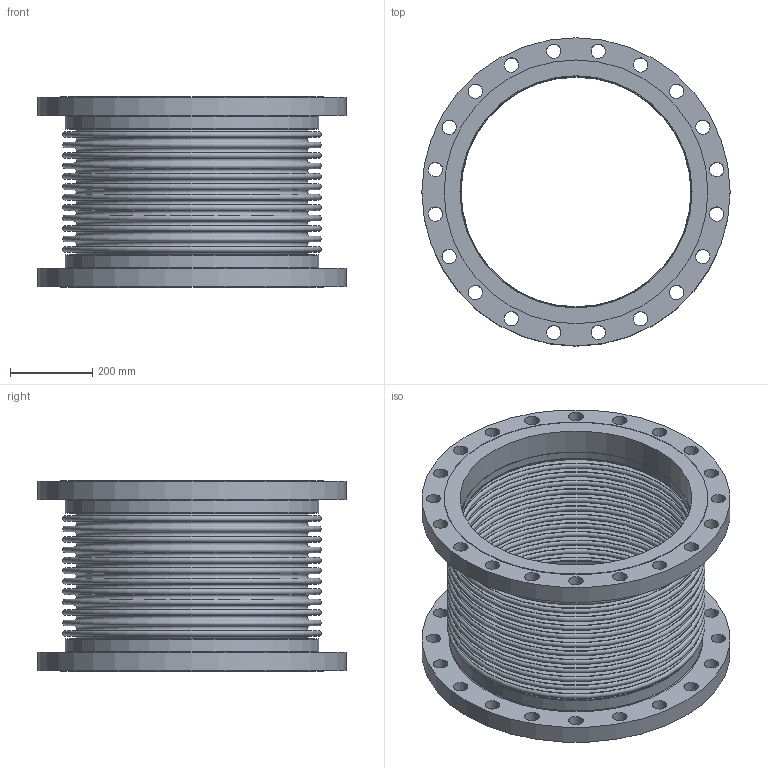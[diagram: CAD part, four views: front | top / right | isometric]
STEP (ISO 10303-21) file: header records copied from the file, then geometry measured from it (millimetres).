
FILE_DESCRIPTION(/* description */ ('EXPANSION JOINT,SINGLE, FLANGED ENDS,22 INCH','CAx-IF Rec.Pracs.---Representation and Presentation of Product Manufacturing Information (PMI)---4.0---2014-10-13'),/* implementation_level */ '2;1');
FILE_NAME(/* name */ 'US-22-12-85L-FLANGED ENDS.stp',/* time_stamp */ '2026-07-31T17:43:44-05:00',/* author */ ('Guadalupe'),/* organization */ (''),/* preprocessor_version */ 'ST-DEVELOPER v20.1',/* originating_system */ 'Autodesk Inventor 2026',/* authorisation */ '');
FILE_SCHEMA (('AP242_MANAGED_MODEL_BASED_3D_ENGINEERING_MIM_LF { 1 0 10303 442 2 1 4 }'));
Length unit declared in the file: inch
Products named in the file (3): 22-85L; 22-85L-02; 22-85L-01
Assembly tree (3 placements, depth 2):
  22-85L
    22-85L-02  x2
    22-85L-01
Bounding box: 749.3 x 749.3 x 463.8 mm (x, y, z)
Volume: 21001982.4 mm3; surface area: 5317313.1 mm2
Topology: 5 solids, 5 shells, 168 faces, 318 edges, 212 vertices
Faces by surface type: plane 62, torus 54, cylinder 52
Full cylindrical faces by diameter (mm): 34.925 x40, 558.8 x2, 561.238 x2, 564.388 x2, 615.95 x2, 641.35 x2, 749.3 x2
Entity records: 3762 total; most frequent: DIRECTION 766, CARTESIAN_POINT 561, ORIENTED_EDGE 480, AXIS2_PLACEMENT_3D 369, EDGE_CURVE 240, EDGE_LOOP 236, CIRCLE 212, VERTEX_POINT 160
